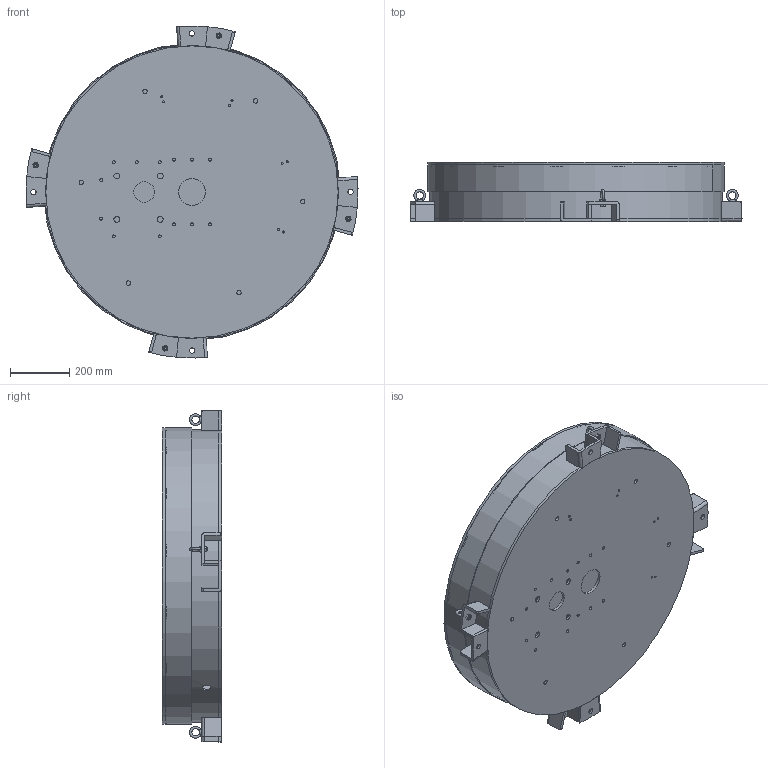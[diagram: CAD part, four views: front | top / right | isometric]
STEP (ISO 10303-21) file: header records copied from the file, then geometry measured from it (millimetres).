
FILE_DESCRIPTION(/* description */ (''),/* implementation_level */ '2;1');
FILE_NAME(/* name */ '',/* time_stamp */ '2026-06-18T12:54:20+09:00',/* author */ ('k-hotta'),/* organization */ (''),/* preprocessor_version */ 'ST-DEVELOPER v20.1',/* originating_system */ 'Autodesk Inventor 2026',/* authorisation */ '');
FILE_SCHEMA (('AUTOMOTIVE_DESIGN { 1 0 10303 214 3 1 1 }'));
Length unit declared in the file: millimetre
Products named in the file (18): P150-0002_総組立図(外観); P151-0023; P151-0023_1; P151-0023-001; P151-0005-002; HPNN50802; P151-0007-001; P151-0007-002; HFSG0835F; PM1174; CHIC10_b; CHIC10_n; PA1202; CFSG0820F2; P151-0009; P151-0009-001; P151-0009-002; P151-0009-003
Assembly tree (35 placements, depth 3):
  P150-0002_総組立図(外観)
    P151-0023
      P151-0023_1
      P151-0023-001
      P151-0005-002
      HPNN50802  x3
    P151-0007-001
    P151-0007-002
    HFSG0835F  x8
    PM1174  x4
      CHIC10_b
      CHIC10_n
    PA1202  x2
    CFSG0820F2  x3
    P151-0009  x4
      P151-0009-001
      P151-0009-002
      P151-0009-003
Bounding box: 1119.76 x 200 x 1119.76 mm (x, y, z)
Volume: 18338191.5 mm3; surface area: 4965232.8 mm2
Topology: 55 solids, 55 shells, 659 faces, 1565 edges, 1095 vertices
Faces by surface type: plane 334, cylinder 163, cone 130, torus 32
Full cylindrical faces by diameter (mm): 6.6 x3, 6.647 x3, 7 x8, 7.7 x4, 8 x11, 8.376 x4, 9 x8, 9.5 x3, 9.6 x3, 10 x4, 10.106 x13, 11 x4, 15 x6, 15.24 x8, 15.4 x4, 16 x3, 16.5 x2, 18 x4, 20 x6, 20.5 x2, 22 x2, 29 x1, 70 x1, 90 x1, 974 x1, 986 x2, 1000 x1
Entity records: 9489 total; most frequent: CARTESIAN_POINT 1943, DIRECTION 1509, ORIENTED_EDGE 1262, EDGE_CURVE 631, AXIS2_PLACEMENT_3D 601, VERTEX_POINT 409, EDGE_LOOP 394, LINE 307
